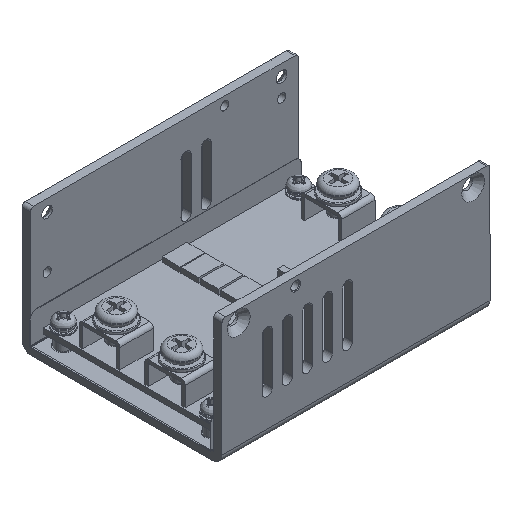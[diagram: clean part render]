
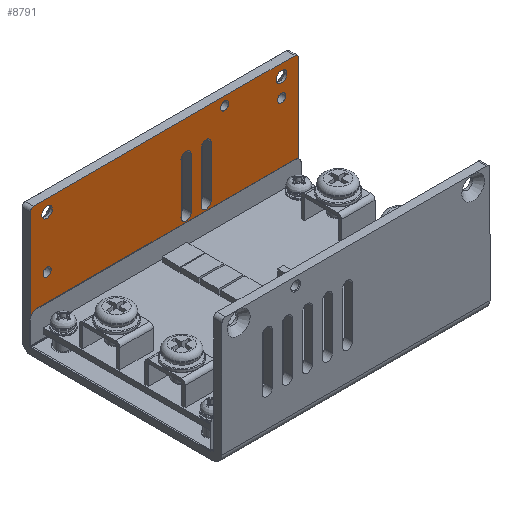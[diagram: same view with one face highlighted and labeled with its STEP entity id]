
A CAD part, isometric view. The second image highlights one B-rep face of the part: STEP entity #8791.
In plain terms, the highlighted planar face has unit normal (0, -1, 0).
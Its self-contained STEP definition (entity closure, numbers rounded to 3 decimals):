
#1437=LINE($,#12657,#3044);
#1439=LINE($,#12662,#3046);
#1440=LINE($,#12666,#3047);
#1441=LINE($,#12670,#3048);
#1442=LINE($,#12674,#3049);
#1443=LINE($,#12677,#3050);
#1444=LINE($,#12679,#3051);
#1445=LINE($,#12681,#3052);
#3044=VECTOR($,#9944,78.);
#3046=VECTOR($,#9948,15.);
#3047=VECTOR($,#9951,15.);
#3048=VECTOR($,#9954,15.);
#3049=VECTOR($,#9957,15.);
#3050=VECTOR($,#9960,34.3);
#3051=VECTOR($,#9961,80.);
#3052=VECTOR($,#9962,34.3);
#4624=PLANE($,#9224);
#4916=FACE_BOUND($,#5458,.T.);
#4917=FACE_BOUND($,#5459,.T.);
#4918=FACE_BOUND($,#5460,.T.);
#4919=FACE_BOUND($,#5461,.T.);
#4920=FACE_BOUND($,#5462,.T.);
#4921=FACE_BOUND($,#5463,.T.);
#4922=FACE_BOUND($,#5464,.T.);
#4923=FACE_BOUND($,#5465,.T.);
#4924=FACE_BOUND($,#5466,.T.);
#5458=EDGE_LOOP($,(#7393));
#5459=EDGE_LOOP($,(#7394));
#5460=EDGE_LOOP($,(#7395));
#5461=EDGE_LOOP($,(#7396));
#5462=EDGE_LOOP($,(#7397));
#5463=EDGE_LOOP($,(#7398));
#5464=EDGE_LOOP($,(#7399,#7400,#7401,#7402));
#5465=EDGE_LOOP($,(#7403,#7404,#7405,#7406));
#5466=EDGE_LOOP($,(#7407,#7408,#7409,#7410,#7411,#7412));
#5892=CIRCLE($,#9173,1.23);
#5894=CIRCLE($,#9177,1.23);
#5896=CIRCLE($,#9181,1.23);
#5898=CIRCLE($,#9185,1.229);
#5911=CIRCLE($,#9208,1.6);
#5913=CIRCLE($,#9212,1.6);
#5918=CIRCLE($,#9222,1.);
#5919=CIRCLE($,#9225,1.5);
#5920=CIRCLE($,#9226,1.5);
#5921=CIRCLE($,#9227,1.5);
#5922=CIRCLE($,#9228,1.5);
#5923=CIRCLE($,#9229,1.);
#6116=VERTEX_POINT($,#12567);
#6118=VERTEX_POINT($,#12573);
#6120=VERTEX_POINT($,#12579);
#6122=VERTEX_POINT($,#12585);
#6139=VERTEX_POINT($,#12629);
#6141=VERTEX_POINT($,#12635);
#6146=VERTEX_POINT($,#12650);
#6147=VERTEX_POINT($,#12652);
#6148=VERTEX_POINT($,#12656);
#6149=VERTEX_POINT($,#12660);
#6150=VERTEX_POINT($,#12661);
#6151=VERTEX_POINT($,#12663);
#6152=VERTEX_POINT($,#12665);
#6153=VERTEX_POINT($,#12668);
#6154=VERTEX_POINT($,#12669);
#6155=VERTEX_POINT($,#12671);
#6156=VERTEX_POINT($,#12673);
#6157=VERTEX_POINT($,#12676);
#6158=VERTEX_POINT($,#12678);
#6159=VERTEX_POINT($,#12680);
#6601=EDGE_CURVE($,#6116,#6116,#5892,.T.);
#6603=EDGE_CURVE($,#6118,#6118,#5894,.T.);
#6605=EDGE_CURVE($,#6120,#6120,#5896,.T.);
#6607=EDGE_CURVE($,#6122,#6122,#5898,.T.);
#6624=EDGE_CURVE($,#6139,#6139,#5911,.T.);
#6626=EDGE_CURVE($,#6141,#6141,#5913,.T.);
#6632=EDGE_CURVE($,#6146,#6147,#5918,.T.);
#6634=EDGE_CURVE($,#6148,#6147,#1437,.T.);
#6636=EDGE_CURVE($,#6149,#6150,#1439,.T.);
#6637=EDGE_CURVE($,#6150,#6151,#5919,.T.);
#6638=EDGE_CURVE($,#6151,#6152,#1440,.T.);
#6639=EDGE_CURVE($,#6152,#6149,#5920,.T.);
#6640=EDGE_CURVE($,#6153,#6154,#1441,.T.);
#6641=EDGE_CURVE($,#6154,#6155,#5921,.T.);
#6642=EDGE_CURVE($,#6155,#6156,#1442,.T.);
#6643=EDGE_CURVE($,#6156,#6153,#5922,.T.);
#6644=EDGE_CURVE($,#6157,#6146,#1443,.T.);
#6645=EDGE_CURVE($,#6157,#6158,#1444,.T.);
#6646=EDGE_CURVE($,#6159,#6158,#1445,.T.);
#6647=EDGE_CURVE($,#6148,#6159,#5923,.T.);
#7393=ORIENTED_EDGE($,*,*,#6607,.T.);
#7394=ORIENTED_EDGE($,*,*,#6626,.T.);
#7395=ORIENTED_EDGE($,*,*,#6624,.T.);
#7396=ORIENTED_EDGE($,*,*,#6603,.T.);
#7397=ORIENTED_EDGE($,*,*,#6601,.T.);
#7398=ORIENTED_EDGE($,*,*,#6605,.T.);
#7399=ORIENTED_EDGE($,*,*,#6636,.T.);
#7400=ORIENTED_EDGE($,*,*,#6637,.T.);
#7401=ORIENTED_EDGE($,*,*,#6638,.T.);
#7402=ORIENTED_EDGE($,*,*,#6639,.T.);
#7403=ORIENTED_EDGE($,*,*,#6640,.T.);
#7404=ORIENTED_EDGE($,*,*,#6641,.T.);
#7405=ORIENTED_EDGE($,*,*,#6642,.T.);
#7406=ORIENTED_EDGE($,*,*,#6643,.T.);
#7407=ORIENTED_EDGE($,*,*,#6632,.F.);
#7408=ORIENTED_EDGE($,*,*,#6644,.F.);
#7409=ORIENTED_EDGE($,*,*,#6645,.T.);
#7410=ORIENTED_EDGE($,*,*,#6646,.F.);
#7411=ORIENTED_EDGE($,*,*,#6647,.F.);
#7412=ORIENTED_EDGE($,*,*,#6634,.T.);
#8791=ADVANCED_FACE($,(#4916,#4917,#4918,#4919,#4920,#4921,#4922,#4923,
#4924),#4624,.T.);
#9173=AXIS2_PLACEMENT_3D($,#12568,#9836,#9837);
#9177=AXIS2_PLACEMENT_3D($,#12574,#9844,#9845);
#9181=AXIS2_PLACEMENT_3D($,#12580,#9852,#9853);
#9185=AXIS2_PLACEMENT_3D($,#12586,#9860,#9861);
#9208=AXIS2_PLACEMENT_3D($,#12630,#9910,#9911);
#9212=AXIS2_PLACEMENT_3D($,#12636,#9918,#9919);
#9222=AXIS2_PLACEMENT_3D($,#12653,#9939,#9940);
#9224=AXIS2_PLACEMENT_3D($,#12659,#9946,#9947);
#9225=AXIS2_PLACEMENT_3D($,#12664,#9949,#9950);
#9226=AXIS2_PLACEMENT_3D($,#12667,#9952,#9953);
#9227=AXIS2_PLACEMENT_3D($,#12672,#9955,#9956);
#9228=AXIS2_PLACEMENT_3D($,#12675,#9958,#9959);
#9229=AXIS2_PLACEMENT_3D($,#12682,#9963,#9964);
#9836=DIRECTION('center_axis',(0.,1.,0.));
#9837=DIRECTION('ref_axis',(1.,0.,0.));
#9844=DIRECTION('center_axis',(0.,1.,0.));
#9845=DIRECTION('ref_axis',(1.,0.,0.));
#9852=DIRECTION('center_axis',(0.,1.,0.));
#9853=DIRECTION('ref_axis',(1.,0.,0.));
#9860=DIRECTION('center_axis',(0.,1.,0.));
#9861=DIRECTION('ref_axis',(1.,0.,0.));
#9910=DIRECTION('center_axis',(0.,1.,0.));
#9911=DIRECTION('ref_axis',(1.,0.,0.));
#9918=DIRECTION('center_axis',(0.,1.,0.));
#9919=DIRECTION('ref_axis',(1.,0.,0.));
#9939=DIRECTION('center_axis',(0.,1.,0.));
#9940=DIRECTION('ref_axis',(-0.707,0.,0.707));
#9944=DIRECTION($,(-1.,0.,0.));
#9946=DIRECTION('center_axis',(0.,-1.,0.));
#9947=DIRECTION('ref_axis',(1.,0.,0.));
#9948=DIRECTION($,(0.,0.,-1.));
#9949=DIRECTION('center_axis',(0.,1.,0.));
#9950=DIRECTION('ref_axis',(1.,0.,0.));
#9951=DIRECTION($,(0.,0.,1.));
#9952=DIRECTION('center_axis',(0.,1.,0.));
#9953=DIRECTION('ref_axis',(-1.,0.,0.));
#9954=DIRECTION($,(0.,0.,-1.));
#9955=DIRECTION('center_axis',(0.,1.,0.));
#9956=DIRECTION('ref_axis',(1.,0.,0.));
#9957=DIRECTION($,(0.,0.,1.));
#9958=DIRECTION('center_axis',(0.,1.,0.));
#9959=DIRECTION('ref_axis',(-1.,0.,0.));
#9960=DIRECTION($,(0.,0.,1.));
#9961=DIRECTION($,(1.,0.,0.));
#9962=DIRECTION($,(0.,0.,-1.));
#9963=DIRECTION('center_axis',(0.,1.,0.));
#9964=DIRECTION('ref_axis',(0.707,0.,0.707));
#12567=CARTESIAN_POINT('',(76.23,57.2,9.));
#12568=CARTESIAN_POINT('Origin',(75.,57.2,9.));
#12573=CARTESIAN_POINT('',(6.229,57.2,19.));
#12574=CARTESIAN_POINT('Origin',(5.,57.2,19.));
#12579=CARTESIAN_POINT('',(76.23,57.2,29.));
#12580=CARTESIAN_POINT('Origin',(75.,57.2,29.));
#12585=CARTESIAN_POINT('',(59.23,57.2,35.5));
#12586=CARTESIAN_POINT('Origin',(58.,57.2,35.5));
#12629=CARTESIAN_POINT('',(3.4,57.2,34.5));
#12630=CARTESIAN_POINT('Origin',(5.,57.2,34.5));
#12635=CARTESIAN_POINT('',(73.4,57.2,34.5));
#12636=CARTESIAN_POINT('Origin',(75.,57.2,34.5));
#12650=CARTESIAN_POINT('',(0.,57.2,37.));
#12652=CARTESIAN_POINT('',(1.,57.2,38.));
#12653=CARTESIAN_POINT('Origin',(1.,57.2,37.));
#12656=CARTESIAN_POINT('',(79.,57.2,38.));
#12657=CARTESIAN_POINT($,(80.,57.2,38.));
#12659=CARTESIAN_POINT('Origin',(40.,57.2,19.329));
#12660=CARTESIAN_POINT('',(48.,57.2,28.));
#12661=CARTESIAN_POINT('',(48.,57.2,13.));
#12662=CARTESIAN_POINT($,(48.,57.2,23.664));
#12663=CARTESIAN_POINT('',(45.,57.2,13.));
#12664=CARTESIAN_POINT('Origin',(46.5,57.2,13.));
#12665=CARTESIAN_POINT('',(45.,57.2,28.));
#12666=CARTESIAN_POINT($,(45.,57.2,16.164));
#12667=CARTESIAN_POINT('Origin',(46.5,57.2,28.));
#12668=CARTESIAN_POINT('',(54.,57.2,28.));
#12669=CARTESIAN_POINT('',(54.,57.2,13.));
#12670=CARTESIAN_POINT($,(54.,57.2,23.664));
#12671=CARTESIAN_POINT('',(51.,57.2,13.));
#12672=CARTESIAN_POINT('Origin',(52.5,57.2,13.));
#12673=CARTESIAN_POINT('',(51.,57.2,28.));
#12674=CARTESIAN_POINT($,(51.,57.2,16.164));
#12675=CARTESIAN_POINT('Origin',(52.5,57.2,28.));
#12676=CARTESIAN_POINT('',(0.,57.2,2.7));
#12677=CARTESIAN_POINT($,(0.,57.2,-1.384));
#12678=CARTESIAN_POINT('',(80.,57.2,2.7));
#12679=CARTESIAN_POINT($,(40.,57.2,2.7));
#12680=CARTESIAN_POINT('',(80.,57.2,37.));
#12681=CARTESIAN_POINT($,(80.,57.2,-1.384));
#12682=CARTESIAN_POINT('Origin',(79.,57.2,37.));
